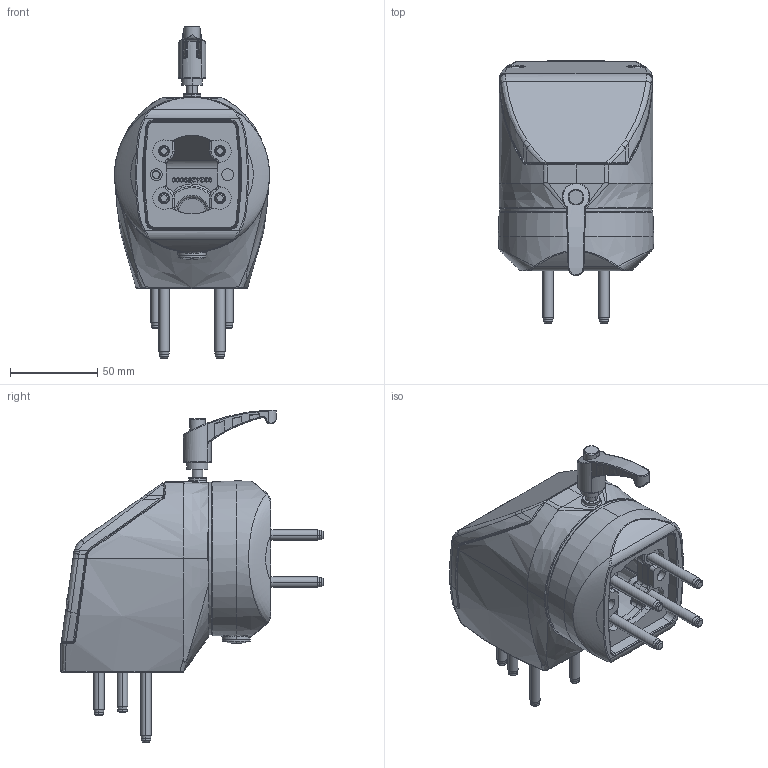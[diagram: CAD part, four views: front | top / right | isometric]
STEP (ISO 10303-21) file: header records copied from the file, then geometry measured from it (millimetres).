
FILE_DESCRIPTION((''),'2;1');
FILE_NAME('1015500017_ASM','2024-03-20T14:33:07',('dirk.bredemeier'),(''),'CREO PARAMETRIC BY PTC INC, 2022124','CREO PARAMETRIC BY PTC INC, 2022124','');
FILE_SCHEMA(('AUTOMOTIVE_DESIGN { 1 0 10303 214 1 1 1 1 }'));
Products named in the file (24): 9324258000_AF0; 9261441000; 9620506000_ASM; 9641000006_ASM; 9371087000; 9231840000_AF6; 9411111000_VG00290; 9324253000_AF0; 9620501000_ASM; 9641000001_ASM; 9371088000; 9502395000; 9263051000; 9432510000; 9324259000_AF0; 9620507000_ASM; 9641000007_DICHTUNG; 9641000007_ASM; 9261654000; 9222005000; 9251096000; 9231841000; 9261655000; 1015500017_ASM
Assembly tree (36 placements, depth 4):
  1015500017_ASM
    9641000006_ASM
      9620506000_ASM
        9324258000_AF0
        9261441000
    9371087000
    9231840000_AF6
    9411111000_VG00290
    9641000001_ASM
      9620501000_ASM
        9324253000_AF0
        9261441000
    9371088000
    9502395000
    9263051000
    9432510000
    9641000007_ASM
      9620507000_ASM
        9324259000_AF0
        9261441000
      9641000007_DICHTUNG
    9261654000  x2
    9222005000
    9251096000
    9231841000  x2
    9261655000  x10
Bounding box: 88.99 x 150.36 x 190.1 mm (x, y, z)
Volume: 415780.6 mm3; surface area: 170228.8 mm2
Topology: 30 solids, 30 shells, 4135 faces, 10522 edges, 6518 vertices
Faces by surface type: plane 1717, bspline 1049, cylinder 666, cone 333, torus 322, sphere 44, extrusion 4
Entity records: 207671 total; most frequent: CARTESIAN_POINT 80875, ORIENTED_EDGE 17928, DIRECTION 14025, PRESENTATION_STYLE_ASSIGNMENT 11802, STYLED_ITEM 11722, CURVE_STYLE 8968, EDGE_CURVE 8964, VERTEX_POINT 5539
